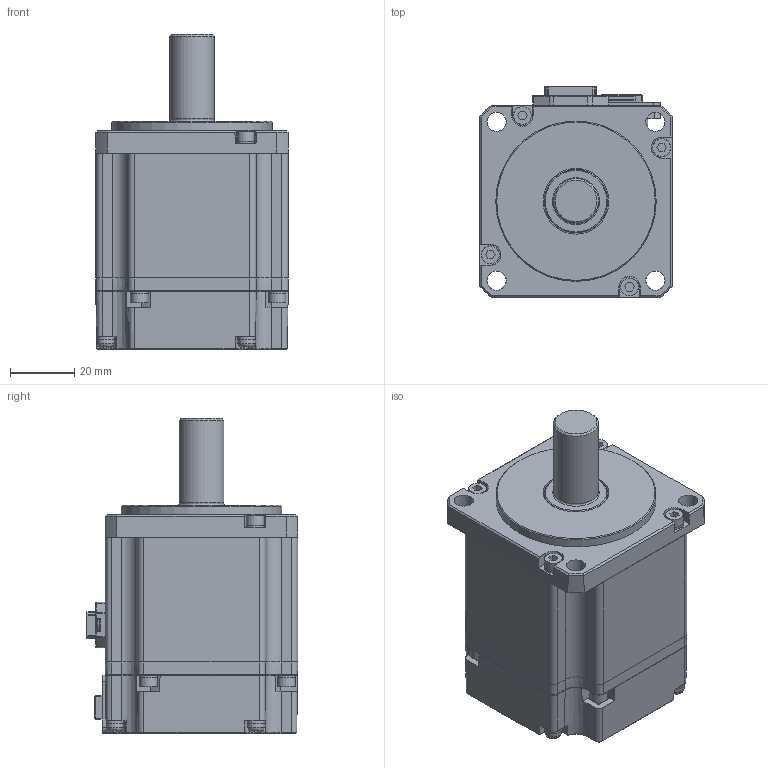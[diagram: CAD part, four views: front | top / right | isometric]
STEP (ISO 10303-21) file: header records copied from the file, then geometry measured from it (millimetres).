
FILE_DESCRIPTION (( 'STEP AP214' ), '1' );
FILE_NAME ('EM06GA003G02_Out Line(APM-EB02AM3N).STEP', '2022-11-10T03:06:05', ( '' ), ( '' ), 'SwSTEP 2.0', 'SolidWorks 2021', '' );
FILE_SCHEMA (( 'AUTOMOTIVE_DESIGN' ));
Length unit declared in the file: millimetre
Products named in the file (1): EM06GA003G02_Out Line(APM-EB02AM3N)
Bounding box: 60 x 65.9 x 98.2 mm (x, y, z)
Volume: 229607.3 mm3; surface area: 53459.1 mm2
Topology: 33 solids, 33 shells, 1405 faces, 3501 edges, 2231 vertices
Faces by surface type: plane 1026, cylinder 213, cone 103, torus 31, bspline 18, sphere 14
Full cylindrical faces by diameter (mm): 1.6 x10, 2 x2, 2.1 x2, 2.5 x12, 3 x16, 3.1 x8, 3.5 x4, 5.4 x8, 5.5 x8, 5.6 x8, 14 x1, 19.8 x1, 20.5 x1, 50 x1
Entity records: 56992 total; most frequent: CARTESIAN_POINT 8560, ORIENTED_EDGE 6668, DIRECTION 6423, EDGE_CURVE 3334, VECTOR 2483, LINE 2483, VERTEX_POINT 2192, AXIS2_PLACEMENT_3D 1970
